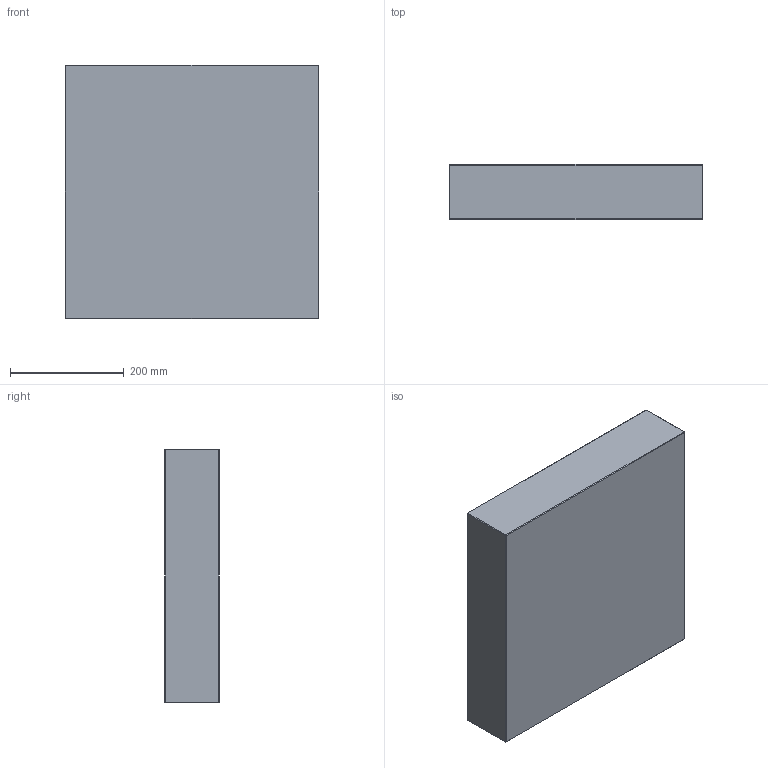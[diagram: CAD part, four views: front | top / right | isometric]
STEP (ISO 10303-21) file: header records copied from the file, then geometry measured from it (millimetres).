
FILE_DESCRIPTION (( 'STEP AP214' ), '1' );
FILE_NAME ('PC-P-446x446x96.STEP', '2020-04-01T11:09:51', ( 'August' ), ( '' ), 'SwSTEP 2.0', 'SolidWorks 2018', '' );
FILE_SCHEMA (( 'AUTOMOTIVE_DESIGN' ));
Length unit declared in the file: millimetre
Products named in the file (1): PC-P-446x446x96
Bounding box: 446 x 96 x 446 mm (x, y, z)
Volume: 19093965.3 mm3; surface area: 566778 mm2
Topology: 1 solids, 1 shells, 26 faces, 48 edges, 24 vertices
Faces by surface type: plane 26
Entity records: 634 total; most frequent: DIRECTION 102, CARTESIAN_POINT 99, ORIENTED_EDGE 96, EDGE_CURVE 48, VECTOR 48, LINE 48, AXIS2_PLACEMENT_3D 27, EDGE_LOOP 26
